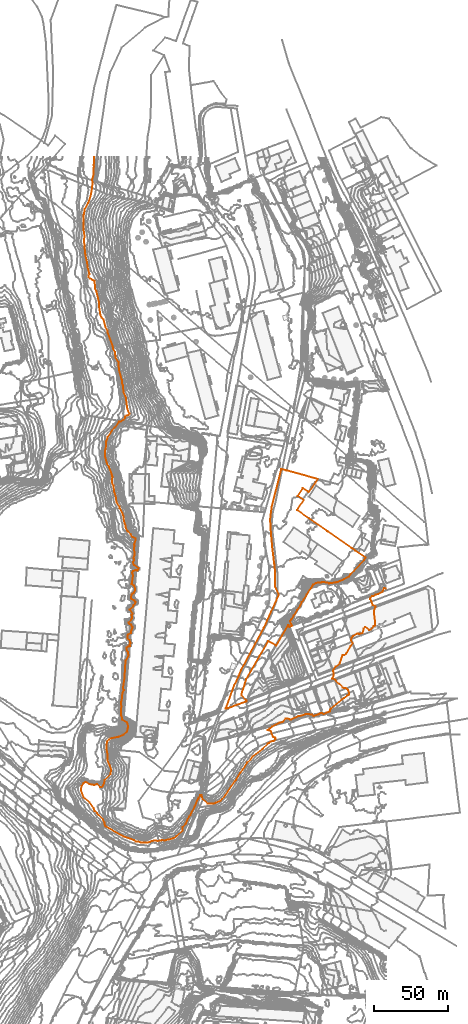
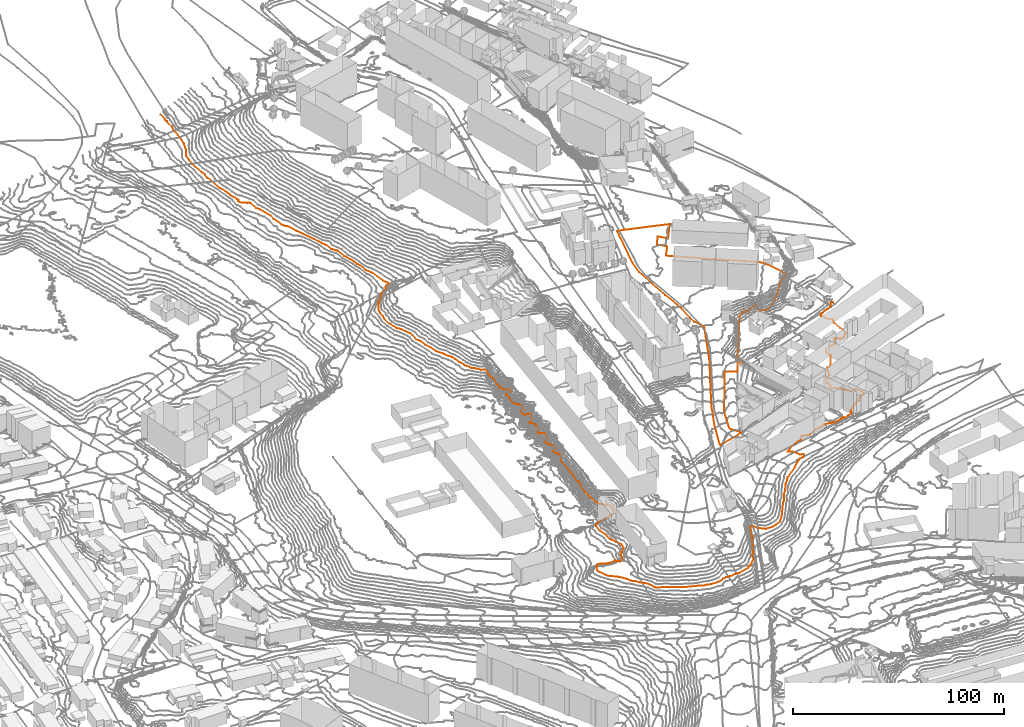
# Not in any storey, part 359 of 419: 2 proxies.
"""IFC2X3 model written with IfcOpenShell, lengths in metres."""

from ifc_helpers import new_model, entity, si_unit, frame, origin_with_axes, place, context, subcontext, project, element, save


model = new_model("IFC2X3")

# Units and contexts
model_context = context("Model", 3, precision=1e-05, world=origin_with_axes())
body_context = subcontext(model_context, "Body", "Model", "MODEL_VIEW")
ifc_project = project(units=[si_unit("AREAUNIT", "SQUARE_METRE"), si_unit("LENGTHUNIT", "METRE")], contexts=[model_context])

# Proxies
proxy_1_placement = place(None, frame((867.4920204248, 657.587690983, 85.0648104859), z_axis=(0.0, 0.0, 1.0), x_axis=(1.0, 0.0, 0.0)))
element("IfcBuildingElementProxy", 1, at=proxy_1_placement, Name="Cadastre 43", ObjectType="NOTDEFINED", context=body_context, shape_type="GeometricCurveSet", body=[
    entity("IfcGeometricCurveSet", [entity("IfcPolyline", [entity("IfcCartesianPoint", [14.27, 4.8300000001, -1.010155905]), entity("IfcCartesianPoint", [13.83, 4.6799999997, -0.9750703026]), entity("IfcCartesianPoint", [8.1800000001, 2.5599999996, -0.6136111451]), entity("IfcCartesianPoint", [1.16, 0.0699999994, -0.0768281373]), entity("IfcCartesianPoint", [0.3099999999, -0.2800000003, -0.0454640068]), entity("IfcCartesianPoint", [0.0, 0.0, 0.0]), entity("IfcCartesianPoint", [5.66, 15.3399999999, 1.2040168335]), entity("IfcCartesianPoint", [8.79, 22.04, 2.0691249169]), entity("IfcCartesianPoint", [10.4, 25.9399999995, 2.5392812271]), entity("IfcCartesianPoint", [16.0599999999, 36.5899999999, 3.9269398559]), entity("IfcCartesianPoint", [25.77, 54.4799999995, 6.2846369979]), entity("IfcCartesianPoint", [28.12, 59.6399999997, 6.948852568]), entity("IfcCartesianPoint", [36.09, 77.3199999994, 8.8111895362]), entity("IfcCartesianPoint", [33.65, 82.8599999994, 9.1684138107]), entity("IfcCartesianPoint", [33.55, 93.3599999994, 9.791113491]), entity("IfcCartesianPoint", [33.08, 97.6899999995, 10.0744147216]), entity("IfcCartesianPoint", [31.91, 107.0899999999, 10.4748511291]), entity("IfcCartesianPoint", [30.74, 119.5999999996, 10.9243230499]), entity("IfcCartesianPoint", [30.21, 128.6600000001, 11.1922573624]), entity("IfcCartesianPoint", [31.22, 136.9299999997, 11.2862442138]), entity("IfcCartesianPoint", [37.77, 162.6499999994, 11.7697786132]), entity("IfcCartesianPoint", [41.35, 161.7399999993, 11.6957615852]), entity("IfcCartesianPoint", [62.54, 155.9299999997, 11.0905822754]), entity("IfcCartesianPoint", [60.92, 153.4399999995, 10.4602953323]), entity("IfcCartesianPoint", [56.5, 146.9199999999, 10.365028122]), entity("IfcCartesianPoint", [52.42, 149.6600000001, 11.3309520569]), entity("IfcCartesianPoint", [48.92, 144.3999999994, 11.0539597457]), entity("IfcCartesianPoint", [52.98, 141.6399999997, 10.2127390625]), entity("IfcCartesianPoint", [48.39, 134.8099999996, 10.5971894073]), entity("IfcCartesianPoint", [68.84, 120.5999999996, 9.8006121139]), entity("IfcCartesianPoint", [69.75, 120.0999999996, 9.7764991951]), entity("IfcCartesianPoint", [85.53, 108.9699999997, 9.3994539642]), entity("IfcCartesianPoint", [88.0599999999, 107.2699999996, 8.3584770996]), entity("IfcCartesianPoint", [95.04, 102.4399999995, 3.5135435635]), entity("IfcCartesianPoint", [93.9300000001, 100.8999999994, 4.5187739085]), entity("IfcCartesianPoint", [84.95, 91.1200000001, 7.2511105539]), entity("IfcCartesianPoint", [83.73, 89.7399999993, 5.4830301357]), entity("IfcCartesianPoint", [80.61, 87.8399999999, 1.7846758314]), entity("IfcCartesianPoint", [76.0699999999, 85.96, -0.4012580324]), entity("IfcCartesianPoint", [75.4, 85.6699999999, -0.3190528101]), entity("IfcCartesianPoint", [70.41, 84.9799999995, 1.4305539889]), entity("IfcCartesianPoint", [68.7, 85.5699999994, 5.4787114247]), entity("IfcCartesianPoint", [65.51, 85.7999999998, 3.1182247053]), entity("IfcCartesianPoint", [64.74, 85.6099999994, 2.5513495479]), entity("IfcCartesianPoint", [63.14, 85.4199999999, 3.0242023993]), entity("IfcCartesianPoint", [61.45, 85.2799999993, 3.455914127]), entity("IfcCartesianPoint", [59.38, 84.0499999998, 2.3239255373]), entity("IfcCartesianPoint", [58.55, 82.6600000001, 1.0558394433]), entity("IfcCartesianPoint", [57.9, 81.8799999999, 0.8467505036]), entity("IfcCartesianPoint", [55.08, 77.3300000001, 0.7090128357]), entity("IfcCartesianPoint", [53.08, 73.9299999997, 0.7311659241]), entity("IfcCartesianPoint", [51.6899999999, 72.1099999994, 1.0160699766]), entity("IfcCartesianPoint", [50.72, 69.9799999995, 1.0510964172]), entity("IfcCartesianPoint", [48.61, 66.7299999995, 0.8538779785]), entity("IfcCartesianPoint", [46.29, 63.0199999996, 0.9212645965]), entity("IfcCartesianPoint", [44.4300000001, 60.1799999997, 0.3101379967]), entity("IfcCartesianPoint", [43.76, 59.2699999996, -0.1648625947]), entity("IfcCartesianPoint", [45.15, 56.1600000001, -2.5525344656]), entity("IfcCartesianPoint", [43.25, 55.3999999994, -2.0011471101]), entity("IfcCartesianPoint", [42.83, 56.2399999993, -1.5160808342]), entity("IfcCartesianPoint", [42.74, 56.5199999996, -1.4187362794]), entity("IfcCartesianPoint", [42.34, 56.6099999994, -1.023932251]), entity("IfcCartesianPoint", [34.3199999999, 42.7699999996, 4.3496689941]), entity("IfcCartesianPoint", [28.83, 45.6699999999, 4.618488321]), entity("IfcCartesianPoint", [22.95, 35.4499999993, 3.3241702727]), entity("IfcCartesianPoint", [13.9399999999, 20.04, 1.8263071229]), entity("IfcCartesianPoint", [10.65, 9.5499999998, 0.3068085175]), entity("IfcCartesianPoint", [10.75, 8.5599999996, 0.1613129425]), entity("IfcCartesianPoint", [14.17, 5.1999999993, -0.8431796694]), entity("IfcCartesianPoint", [14.27, 4.8300000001, -1.010155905])])]),
])
proxy_2_placement = place(None, frame((769.0494737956, 602.8976909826, 80.0), z_axis=(0.0, 0.0, 1.0), x_axis=(1.0, 0.0, 0.0)))
element("IfcBuildingElementProxy", 2, at=proxy_2_placement, Name="Contour 80.0 m", ObjectType="NOTDEFINED", context=body_context, shape_type="GeometricCurveSet", body=[
    entity("IfcGeometricCurveSet", [entity("IfcPolyline", [entity("IfcCartesianPoint", [207.5425466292, 136.1826944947, 0.0]), entity("IfcCartesianPoint", [206.0425466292, 136.3409106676, 0.0]), entity("IfcCartesianPoint", [204.9536566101, 134.0, 0.0]), entity("IfcCartesianPoint", [202.0425466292, 132.4927520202, 0.0]), entity("IfcCartesianPoint", [200.3651248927, 132.0, 0.0]), entity("IfcCartesianPoint", [199.0425466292, 131.1285667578, 0.0]), entity("IfcCartesianPoint", [198.0192858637, 131.0, 0.0]), entity("IfcCartesianPoint", [197.0425532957, 130.0, 0.0]), entity("IfcCartesianPoint", [196.5879759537, 129.0, 0.0]), entity("IfcCartesianPoint", [197.3425389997, 128.0, 0.0]), entity("IfcCartesianPoint", [198.3502524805, 125.0, 0.0]), entity("IfcCartesianPoint", [200.2091921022, 124.0, 0.0]), entity("IfcCartesianPoint", [199.2733113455, 121.0, 0.0]), entity("IfcCartesianPoint", [199.5810013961, 116.0, 0.0]), entity("IfcCartesianPoint", [200.0810019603, 114.0, 0.0]), entity("IfcCartesianPoint", [200.0425466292, 110.9999750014, 0.0]), entity("IfcCartesianPoint", [199.0425466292, 110.4999749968, 0.0]), entity("IfcCartesianPoint", [197.0425466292, 108.3334181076, 0.0]), entity("IfcCartesianPoint", [196.0426465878, 108.0, 0.0]), entity("IfcCartesianPoint", [193.0425466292, 109.9999833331, 0.0]), entity("IfcCartesianPoint", [192.2925227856, 109.0, 0.0]), entity("IfcCartesianPoint", [191.4175227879, 106.0, 0.0]), entity("IfcCartesianPoint", [189.0425466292, 105.25, 0.0]), entity("IfcCartesianPoint", [188.0425466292, 105.6250238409, 0.0]), entity("IfcCartesianPoint", [185.0425466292, 103.9473578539, 0.0]), entity("IfcCartesianPoint", [184.0425466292, 102.5882326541, 0.0]), entity("IfcCartesianPoint", [183.5425507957, 101.0, 0.0]), entity("IfcCartesianPoint", [184.7793760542, 99.0, 0.0]), entity("IfcCartesianPoint", [183.2425161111, 97.0, 0.0]), entity("IfcCartesianPoint", [180.4175227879, 92.0, 0.0]), entity("IfcCartesianPoint", [179.0425466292, 90.7778060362, 0.0]), entity("IfcCartesianPoint", [178.0425466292, 90.8749761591, 0.0]), entity("IfcCartesianPoint", [177.4061892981, 90.0, 0.0]), entity("IfcCartesianPoint", [175.9175227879, 85.0, 0.0]), entity("IfcCartesianPoint", [173.1536765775, 83.0, 0.0]), entity("IfcCartesianPoint", [171.8282687, 81.0, 0.0]), entity("IfcCartesianPoint", [171.4061892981, 80.0, 0.0]), entity("IfcCartesianPoint", [171.9175227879, 79.0, 0.0]), entity("IfcCartesianPoint", [171.9175227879, 77.0, 0.0]), entity("IfcCartesianPoint", [170.7925704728, 75.0, 0.0]), entity("IfcCartesianPoint", [173.0425591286, 74.0, 0.0]), entity("IfcCartesianPoint", [175.0425466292, 71.6667090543, 0.0]), entity("IfcCartesianPoint", [178.0425466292, 68.8333121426, 0.0]), entity("IfcCartesianPoint", [179.0425466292, 68.39996948, 0.0]), entity("IfcCartesianPoint", [180.0425466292, 68.60003052, 0.0]), entity("IfcCartesianPoint", [181.0425466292, 67.8999771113, 0.0]), entity("IfcCartesianPoint", [181.7925466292, 67.0, 0.0]), entity("IfcCartesianPoint", [182.3954772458, 65.0, 0.0]), entity("IfcCartesianPoint", [182.1854349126, 64.0, 0.0]), entity("IfcCartesianPoint", [181.0425466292, 63.4444475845, 0.0]), entity("IfcCartesianPoint", [179.0425466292, 61.5999949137, 0.0]), entity("IfcCartesianPoint", [177.0425466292, 60.5116303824, 0.0]), entity("IfcCartesianPoint", [170.0425466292, 54.6911779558, 0.0]), entity("IfcCartesianPoint", [169.483024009, 54.0, 0.0]), entity("IfcCartesianPoint", [169.4701333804, 53.0, 0.0]), entity("IfcCartesianPoint", [169.0425466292, 52.4414392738, 0.0]), entity("IfcCartesianPoint", [167.0425466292, 51.791667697, 0.0]), entity("IfcCartesianPoint", [165.0425466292, 50.7326397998, 0.0]), entity("IfcCartesianPoint", [164.0425466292, 51.3943649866, 0.0]), entity("IfcCartesianPoint", [163.0425466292, 51.3236988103, 0.0]), entity("IfcCartesianPoint", [162.0425466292, 50.6610171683, 0.0]), entity("IfcCartesianPoint", [158.0425466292, 49.6000005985, 0.0]), entity("IfcCartesianPoint", [157.0425466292, 50.3513524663, 0.0]), entity("IfcCartesianPoint", [156.0425466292, 50.3402076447, 0.0]), entity("IfcCartesianPoint", [155.0425466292, 50.7590381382, 0.0]), entity("IfcCartesianPoint", [153.0425466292, 50.7580631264, 0.0]), entity("IfcCartesianPoint", [150.0425466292, 49.7321426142, 0.0]), entity("IfcCartesianPoint", [148.0425466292, 49.4565206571, 0.0]), entity("IfcCartesianPoint", [143.0425466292, 47.2162195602, 0.0]), entity("IfcCartesianPoint", [142.0425466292, 47.200012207, 0.0]), entity("IfcCartesianPoint", [140.0425466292, 47.8181786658, 0.0]), entity("IfcCartesianPoint", [139.0425466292, 47.7142960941, 0.0]), entity("IfcCartesianPoint", [137.0425466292, 45.3529306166, 0.0]), entity("IfcCartesianPoint", [135.0425466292, 44.9999944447, 0.0]), entity("IfcCartesianPoint", [130.0425466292, 42.2727146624, 0.0]), entity("IfcCartesianPoint", [128.2425466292, 41.0, 0.0]), entity("IfcCartesianPoint", [127.042563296, 40.0, 0.0]), entity("IfcCartesianPoint", [129.2092344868, 39.0, 0.0]), entity("IfcCartesianPoint", [130.8758587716, 35.0, 0.0]), entity("IfcCartesianPoint", [132.0425466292, 34.7333299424, 0.0]), entity("IfcCartesianPoint", [132.4825490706, 34.0, 0.0]), entity("IfcCartesianPoint", [132.0425466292, 33.3125119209, 0.0]), entity("IfcCartesianPoint", [131.0425466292, 32.4999958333, 0.0]), entity("IfcCartesianPoint", [129.0425466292, 32.2105284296, 0.0]), entity("IfcCartesianPoint", [128.0425466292, 31.2499952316, 0.0]), entity("IfcCartesianPoint", [127.0425466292, 30.7837804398, 0.0]), entity("IfcCartesianPoint", [123.3996946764, 27.0, 0.0]), entity("IfcCartesianPoint", [116.6463210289, 22.0, 0.0]), entity("IfcCartesianPoint", [115.2579298, 20.0, 0.0]), entity("IfcCartesianPoint", [113.0425466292, 17.7083320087, 0.0]), entity("IfcCartesianPoint", [110.0425483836, 13.0, 0.0]), entity("IfcCartesianPoint", [108.0425466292, 10.6041643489, 0.0]), entity("IfcCartesianPoint", [105.3758799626, 6.0, 0.0]), entity("IfcCartesianPoint", [104.3219618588, 5.0, 0.0]), entity("IfcCartesianPoint", [98.0425466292, -4.5294064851, 0.0]), entity("IfcCartesianPoint", [95.0425466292, -8.0533345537, 0.0]), entity("IfcCartesianPoint", [92.0425466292, -9.4590139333, 0.0]), entity("IfcCartesianPoint", [90.0425466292, -10.0135163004, 0.0]), entity("IfcCartesianPoint", [86.0425466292, -9.9062537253, 0.0]), entity("IfcCartesianPoint", [82.7972682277, -7.0, 0.0]), entity("IfcCartesianPoint", [82.0425466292, -4.3333502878, 0.0]), entity("IfcCartesianPoint", [81.0425466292, -4.1874970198, 0.0]), entity("IfcCartesianPoint", [80.9359909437, -5.0, 0.0]), entity("IfcCartesianPoint", [80.0425466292, -5.8320598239, 0.0]), entity("IfcCartesianPoint", [79.7597863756, -7.0, 0.0]), entity("IfcCartesianPoint", [78.9743633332, -8.0, 0.0]), entity("IfcCartesianPoint", [77.4195946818, -12.0, 0.0]), entity("IfcCartesianPoint", [75.0941606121, -16.0, 0.0]), entity("IfcCartesianPoint", [74.5446747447, -18.0, 0.0]), entity("IfcCartesianPoint", [73.6089783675, -19.0, 0.0]), entity("IfcCartesianPoint", [72.4499535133, -21.0, 0.0]), entity("IfcCartesianPoint", [71.2557435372, -24.0, 0.0]), entity("IfcCartesianPoint", [69.2756741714, -26.0, 0.0]), entity("IfcCartesianPoint", [69.0425466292, -28.2380926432, 0.0]), entity("IfcCartesianPoint", [65.0425466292, -32.2833310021, 0.0]), entity("IfcCartesianPoint", [63.0425466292, -33.6000025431, 0.0]), entity("IfcCartesianPoint", [57.0425466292, -35.0933329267, 0.0]), entity("IfcCartesianPoint", [55.0425466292, -34.983047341, 0.0]), entity("IfcCartesianPoint", [52.0425466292, -35.4375019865, 0.0]), entity("IfcCartesianPoint", [50.0425466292, -35.1590893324, 0.0]), entity("IfcCartesianPoint", [48.0425466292, -35.4687552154, 0.0]), entity("IfcCartesianPoint", [47.0425466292, -36.0714324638, 0.0]), entity("IfcCartesianPoint", [45.0425466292, -36.6222237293, 0.0]), entity("IfcCartesianPoint", [41.0425466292, -36.5689668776, 0.0]), entity("IfcCartesianPoint", [39.0425466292, -35.9154962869, 0.0]), entity("IfcCartesianPoint", [37.0425466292, -35.7021297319, 0.0]), entity("IfcCartesianPoint", [36.0425466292, -34.9213486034, 0.0]), entity("IfcCartesianPoint", [29.0425466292, -32.460523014, 0.0]), entity("IfcCartesianPoint", [17.0425466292, -25.8059737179, 0.0]), entity("IfcCartesianPoint", [16.3675480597, -25.0, 0.0]), entity("IfcCartesianPoint", [16.0269182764, -23.0, 0.0]), entity("IfcCartesianPoint", [15.0425466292, -20.9772679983, 0.0]), entity("IfcCartesianPoint", [12.0258763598, -18.0, 0.0]), entity("IfcCartesianPoint", [11.0425466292, -16.4285714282, 0.0]), entity("IfcCartesianPoint", [9.2983618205, -15.0, 0.0]), entity("IfcCartesianPoint", [8.7025502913, -13.0, 0.0]), entity("IfcCartesianPoint", [6.0425466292, -9.439021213, 0.0]), entity("IfcCartesianPoint", [1.9271665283, -6.0, 0.0]), entity("IfcCartesianPoint", [0.0425445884, -1.0, 0.0]), entity("IfcCartesianPoint", [0.0, 0.0, 0.0]), entity("IfcCartesianPoint", [0.5527529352, 2.0, 0.0]), entity("IfcCartesianPoint", [1.7793859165, 4.0, 0.0]), entity("IfcCartesianPoint", [3.0425466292, 4.6710535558, 0.0]), entity("IfcCartesianPoint", [6.0425466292, 3.1564647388, 0.0]), entity("IfcCartesianPoint", [9.0425466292, 2.6198351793, 0.0]), entity("IfcCartesianPoint", [11.0425466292, 3.1428578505, 0.0]), entity("IfcCartesianPoint", [13.0425466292, 1.2750004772, 0.0]), entity("IfcCartesianPoint", [14.0425466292, 1.3333301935, 0.0]), entity("IfcCartesianPoint", [15.0425466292, 2.3333298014, 0.0]), entity("IfcCartesianPoint", [15.7634765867, 4.0, 0.0]), entity("IfcCartesianPoint", [16.1445925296, 6.0, 0.0]), entity("IfcCartesianPoint", [20.0217089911, 10.0, 0.0]), entity("IfcCartesianPoint", [20.6536600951, 13.0, 0.0]), entity("IfcCartesianPoint", [19.6651930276, 16.0, 0.0]), entity("IfcCartesianPoint", [18.0425466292, 19.4444350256, 0.0]), entity("IfcCartesianPoint", [18.2633244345, 23.0, 0.0]), entity("IfcCartesianPoint", [17.3029635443, 28.0, 0.0]), entity("IfcCartesianPoint", [17.7409577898, 32.0, 0.0]), entity("IfcCartesianPoint", [19.0425466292, 33.6222237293, 0.0]), entity("IfcCartesianPoint", [20.0425466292, 34.2967009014, 0.0]), entity("IfcCartesianPoint", [26.0425466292, 35.3645820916, 0.0]), entity("IfcCartesianPoint", [29.0425466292, 36.8362053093, 0.0]), entity("IfcCartesianPoint", [31.3241012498, 39.0, 0.0]), entity("IfcCartesianPoint", [31.8806429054, 41.0, 0.0]), entity("IfcCartesianPoint", [32.0684077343, 42.0, 0.0]), entity("IfcCartesianPoint", [31.8583368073, 44.0, 0.0]), entity("IfcCartesianPoint", [31.278396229, 45.0, 0.0]), entity("IfcCartesianPoint", [28.1264160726, 47.0, 0.0]), entity("IfcCartesianPoint", [28.1345720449, 48.0, 0.0]), entity("IfcCartesianPoint", [27.4161903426, 50.0, 0.0]), entity("IfcCartesianPoint", [27.3152734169, 54.0, 0.0]), entity("IfcCartesianPoint", [27.5623091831, 56.0, 0.0]), entity("IfcCartesianPoint", [27.3145681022, 59.0, 0.0]), entity("IfcCartesianPoint", [27.6928533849, 60.0, 0.0]), entity("IfcCartesianPoint", [28.2728841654, 65.0, 0.0]), entity("IfcCartesianPoint", [28.54254647, 66.0, 0.0]), entity("IfcCartesianPoint", [29.2882155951, 67.0, 0.0]), entity("IfcCartesianPoint", [28.7685741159, 68.0, 0.0]), entity("IfcCartesianPoint", [28.6451105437, 69.0, 0.0]), entity("IfcCartesianPoint", [29.5982788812, 75.0, 0.0]), entity("IfcCartesianPoint", [30.3566052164, 87.0, 0.0]), entity("IfcCartesianPoint", [32.578800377, 91.0, 0.0]), entity("IfcCartesianPoint", [32.1597784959, 92.0, 0.0]), entity("IfcCartesianPoint", [32.1513033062, 93.0, 0.0]), entity("IfcCartesianPoint", [31.2781238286, 94.0, 0.0]), entity("IfcCartesianPoint", [31.0028908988, 95.0, 0.0]), entity("IfcCartesianPoint", [31.2139747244, 96.0, 0.0]), entity("IfcCartesianPoint", [32.0425466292, 96.610148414, 0.0]), entity("IfcCartesianPoint", [33.3170098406, 97.0, 0.0]), entity("IfcCartesianPoint", [33.1725607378, 98.0, 0.0]), entity("IfcCartesianPoint", [33.6550990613, 99.0, 0.0]), entity("IfcCartesianPoint", [33.1607804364, 101.0, 0.0]), entity("IfcCartesianPoint", [31.8958012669, 102.0, 0.0]), entity("IfcCartesianPoint", [31.6320874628, 103.0, 0.0]), entity("IfcCartesianPoint", [31.7595279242, 104.0, 0.0]), entity("IfcCartesianPoint", [32.240175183, 105.0, 0.0]), entity("IfcCartesianPoint", [34.0019375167, 106.0, 0.0]), entity("IfcCartesianPoint", [34.3158807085, 108.0, 0.0]), entity("IfcCartesianPoint", [34.9153641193, 109.0, 0.0]), entity("IfcCartesianPoint", [35.1262783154, 110.0, 0.0]), entity("IfcCartesianPoint", [34.5999235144, 111.0, 0.0]), entity("IfcCartesianPoint", [34.0425466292, 111.5743234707, 0.0]), entity("IfcCartesianPoint", [33.0031199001, 112.0, 0.0]), entity("IfcCartesianPoint", [32.3753486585, 113.0, 0.0]), entity("IfcCartesianPoint", [34.2755976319, 115.0, 0.0]), entity("IfcCartesianPoint", [34.8447296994, 116.0, 0.0]), entity("IfcCartesianPoint", [34.6162713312, 118.0, 0.0]), entity("IfcCartesianPoint", [35.2667277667, 119.0, 0.0]), entity("IfcCartesianPoint", [33.1384366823, 122.0, 0.0]), entity("IfcCartesianPoint", [35.5216436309, 124.0, 0.0]), entity("IfcCartesianPoint", [35.7069652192, 125.0, 0.0]), entity("IfcCartesianPoint", [36.7170561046, 126.0, 0.0]), entity("IfcCartesianPoint", [37.2297612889, 127.0, 0.0]), entity("IfcCartesianPoint", [36.4633952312, 128.0, 0.0]), entity("IfcCartesianPoint", [34.341247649, 129.0, 0.0]), entity("IfcCartesianPoint", [33.97310261, 130.0, 0.0]), entity("IfcCartesianPoint", [34.5162308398, 132.0, 0.0]), entity("IfcCartesianPoint", [35.0425466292, 132.7702704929, 0.0]), entity("IfcCartesianPoint", [36.0425466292, 133.3426787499, 0.0]), entity("IfcCartesianPoint", [36.9585767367, 135.0, 0.0]), entity("IfcCartesianPoint", [36.9627918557, 136.0, 0.0]), entity("IfcCartesianPoint", [36.1713979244, 138.0, 0.0]), entity("IfcCartesianPoint", [34.5792258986, 139.0, 0.0]), entity("IfcCartesianPoint", [35.3986444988, 145.0, 0.0]), entity("IfcCartesianPoint", [34.9539241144, 147.0, 0.0]), entity("IfcCartesianPoint", [35.442994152, 148.0, 0.0]), entity("IfcCartesianPoint", [37.0425466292, 148.7422431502, 0.0]), entity("IfcCartesianPoint", [38.0425466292, 148.4537634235, 0.0]), entity("IfcCartesianPoint", [38.8910989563, 149.0, 0.0]), entity("IfcCartesianPoint", [39.2878071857, 150.0, 0.0]), entity("IfcCartesianPoint", [36.0798269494, 152.0, 0.0]), entity("IfcCartesianPoint", [35.4189997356, 154.0, 0.0]), entity("IfcCartesianPoint", [36.0304827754, 155.0, 0.0]), entity("IfcCartesianPoint", [36.0999113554, 156.0, 0.0]), entity("IfcCartesianPoint", [35.6746123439, 157.0, 0.0]), entity("IfcCartesianPoint", [36.4519035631, 159.0, 0.0]), entity("IfcCartesianPoint", [36.2214538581, 164.0, 0.0]), entity("IfcCartesianPoint", [36.4989717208, 165.0, 0.0]), entity("IfcCartesianPoint", [36.2686099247, 166.0, 0.0]), entity("IfcCartesianPoint", [37.116360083, 169.0, 0.0]), entity("IfcCartesianPoint", [37.0425466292, 170.2096746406, 0.0]), entity("IfcCartesianPoint", [35.0425466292, 171.0571335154, 0.0]), entity("IfcCartesianPoint", [33.8139714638, 173.0, 0.0]), entity("IfcCartesianPoint", [32.0425466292, 174.6923031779, 0.0]), entity("IfcCartesianPoint", [30.3897682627, 178.0, 0.0]), entity("IfcCartesianPoint", [30.406181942, 179.0, 0.0]), entity("IfcCartesianPoint", [29.2996910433, 182.0, 0.0]), entity("IfcCartesianPoint", [29.026149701, 185.0, 0.0]), entity("IfcCartesianPoint", [28.375875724, 187.0, 0.0]), entity("IfcCartesianPoint", [26.325569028, 191.0, 0.0]), entity("IfcCartesianPoint", [26.1675466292, 192.0, 0.0]), entity("IfcCartesianPoint", [24.2515015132, 195.0, 0.0]), entity("IfcCartesianPoint", [23.650145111, 199.0, 0.0]), entity("IfcCartesianPoint", [22.685402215, 202.0, 0.0]), entity("IfcCartesianPoint", [22.0961161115, 206.0, 0.0]), entity("IfcCartesianPoint", [21.198794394, 208.0, 0.0]), entity("IfcCartesianPoint", [21.3709075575, 212.0, 0.0]), entity("IfcCartesianPoint", [21.0158844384, 214.0, 0.0]), entity("IfcCartesianPoint", [19.0280508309, 219.0, 0.0]), entity("IfcCartesianPoint", [17.7476729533, 221.0, 0.0]), entity("IfcCartesianPoint", [16.472925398, 226.0, 0.0]), entity("IfcCartesianPoint", [16.5092112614, 230.0, 0.0]), entity("IfcCartesianPoint", [17.1129727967, 233.0, 0.0]), entity("IfcCartesianPoint", [17.2898619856, 236.0, 0.0]), entity("IfcCartesianPoint", [18.175877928, 239.0, 0.0]), entity("IfcCartesianPoint", [21.0425466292, 243.5333322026, 0.0]), entity("IfcCartesianPoint", [23.0425466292, 245.4000040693, 0.0]), entity("IfcCartesianPoint", [25.476891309, 249.0, 0.0]), entity("IfcCartesianPoint", [26.0425466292, 249.5773163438, 0.0]), entity("IfcCartesianPoint", [27.0425466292, 249.794117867, 0.0]), entity("IfcCartesianPoint", [29.1295002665, 251.0, 0.0]), entity("IfcCartesianPoint", [29.9526568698, 252.0, 0.0]), entity("IfcCartesianPoint", [30.1445925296, 253.0, 0.0]), entity("IfcCartesianPoint", [31.0425466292, 253.745761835, 0.0]), entity("IfcCartesianPoint", [32.264762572, 254.0, 0.0]), entity("IfcCartesianPoint", [32.9425237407, 255.0, 0.0]), entity("IfcCartesianPoint", [31.6377873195, 258.0, 0.0]), entity("IfcCartesianPoint", [30.6050460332, 266.0, 0.0]), entity("IfcCartesianPoint", [29.0425466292, 269.6896606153, 0.0]), entity("IfcCartesianPoint", [28.5719572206, 274.0, 0.0]), entity("IfcCartesianPoint", [27.9290691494, 276.0, 0.0]), entity("IfcCartesianPoint", [27.8425479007, 278.0, 0.0]), entity("IfcCartesianPoint", [25.9098024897, 285.0, 0.0]), entity("IfcCartesianPoint", [25.5033302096, 290.0, 0.0]), entity("IfcCartesianPoint", [23.5744601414, 293.0, 0.0]), entity("IfcCartesianPoint", [23.2004360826, 297.0, 0.0]), entity("IfcCartesianPoint", [22.0425466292, 299.2142779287, 0.0]), entity("IfcCartesianPoint", [21.6914817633, 301.0, 0.0]), entity("IfcCartesianPoint", [18.2513396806, 310.0, 0.0]), entity("IfcCartesianPoint", [18.0425466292, 311.3928610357, 0.0]), entity("IfcCartesianPoint", [16.7381995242, 314.0, 0.0]), entity("IfcCartesianPoint", [15.4378909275, 319.0, 0.0]), entity("IfcCartesianPoint", [14.0425466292, 320.4782565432, 0.0]), entity("IfcCartesianPoint", [13.3044539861, 322.0, 0.0]), entity("IfcCartesianPoint", [12.3592141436, 328.0, 0.0]), entity("IfcCartesianPoint", [12.3299020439, 331.0, 0.0]), entity("IfcCartesianPoint", [10.6425466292, 338.0, 0.0]), entity("IfcCartesianPoint", [9.693706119, 340.0, 0.0]), entity("IfcCartesianPoint", [9.3536584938, 345.0, 0.0]), entity("IfcCartesianPoint", [9.0425466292, 345.4374985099, 0.0]), entity("IfcCartesianPoint", [8.0425466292, 345.7931125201, 0.0]), entity("IfcCartesianPoint", [6.2806487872, 347.0, 0.0]), entity("IfcCartesianPoint", [5.3758799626, 348.0, 0.0]), entity("IfcCartesianPoint", [5.090176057, 349.0, 0.0]), entity("IfcCartesianPoint", [5.7613078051, 350.0, 0.0]), entity("IfcCartesianPoint", [5.6139726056, 351.0, 0.0]), entity("IfcCartesianPoint", [4.5109039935, 355.0, 0.0]), entity("IfcCartesianPoint", [4.2679017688, 358.0, 0.0]), entity("IfcCartesianPoint", [3.0227478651, 363.0, 0.0]), entity("IfcCartesianPoint", [2.1445925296, 373.0, 0.0]), entity("IfcCartesianPoint", [2.515275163, 376.0, 0.0]), entity("IfcCartesianPoint", [2.0592168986, 378.0, 0.0]), entity("IfcCartesianPoint", [1.7136001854, 384.0, 0.0]), entity("IfcCartesianPoint", [1.9516406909, 390.0, 0.0]), entity("IfcCartesianPoint", [2.6298480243, 394.0, 0.0]), entity("IfcCartesianPoint", [4.8873789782, 398.0, 0.0]), entity("IfcCartesianPoint", [6.6225484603, 403.0, 0.0]), entity("IfcCartesianPoint", [7.5553601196, 408.0, 0.0]), entity("IfcCartesianPoint", [7.8758870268, 411.0, 0.0]), entity("IfcCartesianPoint", [7.7258791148, 414.0, 0.0]), entity("IfcCartesianPoint", [8.6615959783, 418.0, 0.0]), entity("IfcCartesianPoint", [8.6835732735, 422.0, 0.0]), entity("IfcCartesianPoint", [8.9372982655, 423.0, 0.0]), entity("IfcCartesianPoint", [8.6287453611, 424.0, 0.0]), entity("IfcCartesianPoint", [9.0425466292, 425.39996948, 0.0]), entity("IfcCartesianPoint", [9.0425366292, 429.5, 0.0])])]),
])

save(model, "model.ifc")
